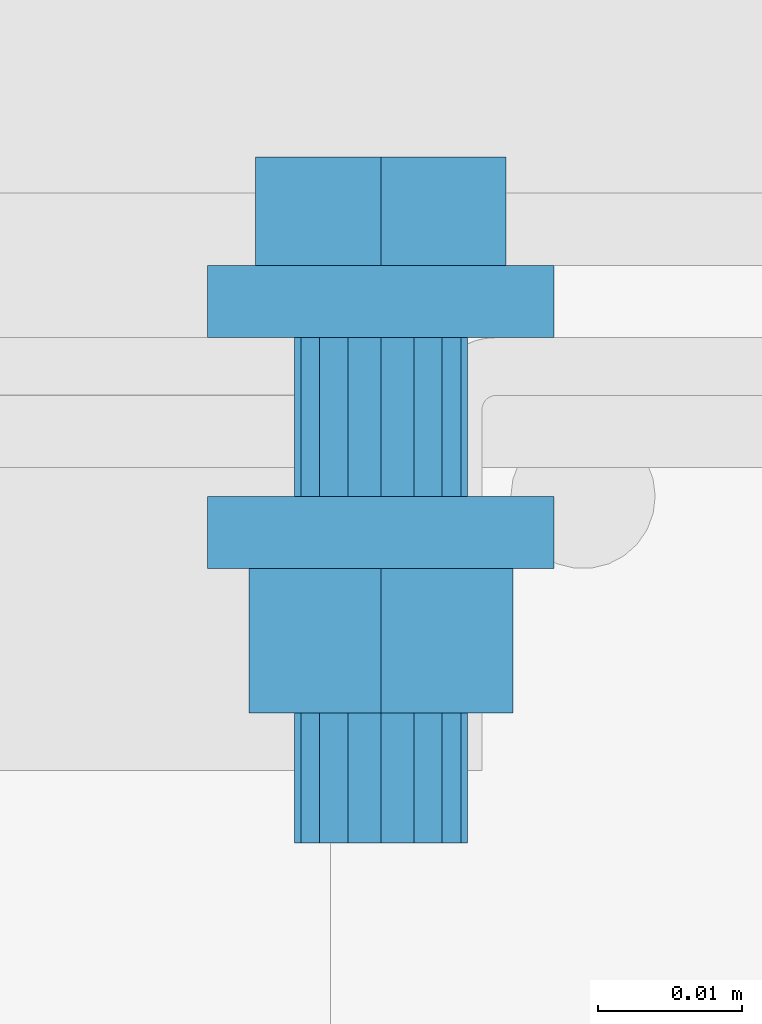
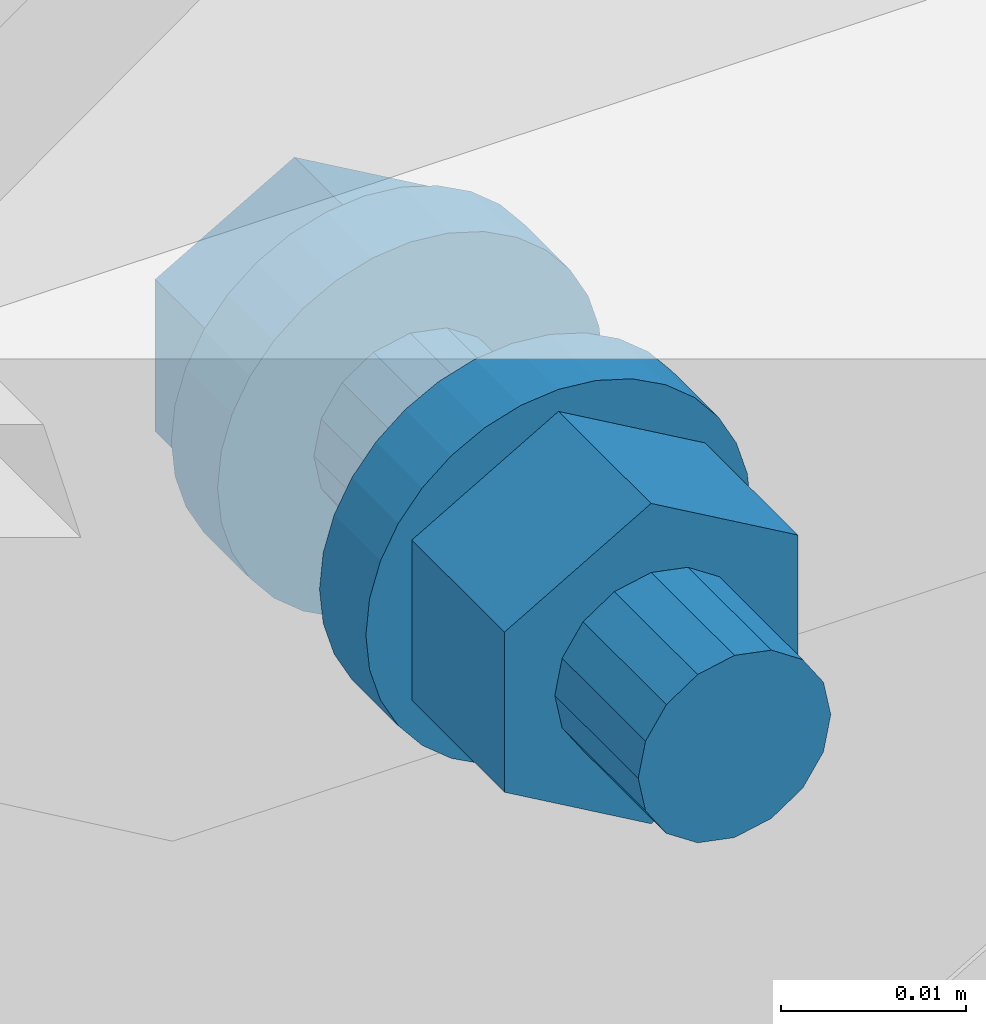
# One storey, part 87 of 116: 1 mechanical fastener.
"""IFC2X3 building model written with IfcOpenShell, lengths in millimetres."""

from ifc_helpers import new_model, entity, si_unit, converted_unit, origin_with_axes, place, context, project, spatial, faceted_brep, element, save


model = new_model("IFC2X3")

# Units and contexts
model_context = context("Model", 3, precision=1e-09, world=origin_with_axes())
ifc_project = project(units=[si_unit("LENGTHUNIT", "METRE", prefix="MILLI"), si_unit("AREAUNIT", "SQUARE_METRE"), si_unit("VOLUMEUNIT", "CUBIC_METRE"), converted_unit("PLANEANGLEUNIT", "DEGREE", entity("IfcPlaneAngleMeasure", 0.01745329), si_unit("PLANEANGLEUNIT", "RADIAN"), dimensions=[0, 0, 0, 0, 0, 0, 0])], contexts=[model_context])

# Site, building, storey
site_placement = place(None, origin_with_axes())
site = spatial("IfcSite", under=ifc_project, at=site_placement, Name="Site", CompositionType="ELEMENT")
building_placement = place(site_placement, origin_with_axes())
building = spatial("IfcBuilding", under=site, at=building_placement, Name="Struktur 1", CompositionType="ELEMENT")
storey_placement = place(building_placement, origin_with_axes())
storey = spatial("IfcBuildingStorey", under=building, at=storey_placement, Name="Default Storey", CompositionType="ELEMENT", Elevation=0.0)

# Mechanical fastener
mechanical_fastener_placement = place(None, origin_with_axes())
element("IfcMechanicalFastener", 1, at=mechanical_fastener_placement, inside=storey, ObjectType="-", NominalDiameter=12.0, NominalLength=40.0, context=model_context, shape_type="Brep", body=[
    faceted_brep([(60385.049134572, 10430.358883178, -1308.0), (60385.049134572, 10432.858883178, -1308.0), (60385.279711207, 10432.858883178, -1310.341083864), (60385.279711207, 10430.358883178, -1310.341083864), (60385.962580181, 10432.858883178, -1312.592201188), (60385.962580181, 10430.358883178, -1312.592201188), (60387.071499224, 10432.858883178, -1314.666842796), (60387.071499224, 10430.358883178, -1314.666842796), (60388.563853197, 10432.858883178, -1316.485281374), (60388.563853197, 10430.358883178, -1316.485281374), (60390.382291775, 10432.858883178, -1317.977635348), (60390.382291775, 10430.358883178, -1317.977635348), (60392.456933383, 10432.858883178, -1319.08655439), (60392.456933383, 10430.358883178, -1319.08655439), (60394.708050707, 10432.858883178, -1319.769423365), (60394.708050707, 10430.358883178, -1319.769423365), (60397.049134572, 10432.858883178, -1320.0), (60397.049134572, 10430.358883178, -1320.0), (60399.390218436, 10432.858883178, -1319.769423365), (60399.390218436, 10430.358883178, -1319.769423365), (60401.64133576, 10432.858883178, -1319.08655439), (60401.64133576, 10430.358883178, -1319.08655439), (60403.715977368, 10432.858883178, -1317.977635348), (60403.715977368, 10430.358883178, -1317.977635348), (60405.534415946, 10432.858883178, -1316.485281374), (60405.534415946, 10430.358883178, -1316.485281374), (60407.026769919, 10432.858883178, -1314.666842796), (60407.026769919, 10430.358883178, -1314.666842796), (60408.135688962, 10432.858883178, -1312.592201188), (60408.135688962, 10430.358883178, -1312.592201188), (60408.818557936, 10432.858883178, -1310.341083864), (60408.818557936, 10430.358883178, -1310.341083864), (60409.049134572, 10432.858883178, -1308.0), (60409.049134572, 10430.358883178, -1308.0), (60408.818557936, 10432.858883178, -1305.658916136), (60408.818557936, 10430.358883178, -1305.658916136), (60408.135688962, 10432.858883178, -1303.407798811), (60408.135688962, 10430.358883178, -1303.407798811), (60407.026769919, 10432.858883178, -1301.333157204), (60407.026769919, 10430.358883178, -1301.333157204), (60405.534415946, 10432.858883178, -1299.514718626), (60405.534415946, 10430.358883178, -1299.514718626), (60403.715977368, 10432.858883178, -1298.022364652), (60403.715977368, 10430.358883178, -1298.022364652), (60401.64133576, 10432.858883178, -1296.91344561), (60401.64133576, 10430.358883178, -1296.91344561), (60399.390218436, 10432.858883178, -1296.230576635), (60399.390218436, 10430.358883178, -1296.230576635), (60397.049134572, 10432.858883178, -1296.0), (60397.049134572, 10430.358883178, -1296.0), (60394.708050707, 10432.858883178, -1296.230576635), (60394.708050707, 10430.358883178, -1296.230576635), (60392.456933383, 10432.858883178, -1296.91344561), (60392.456933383, 10430.358883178, -1296.91344561), (60390.382291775, 10432.858883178, -1298.022364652), (60390.382291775, 10430.358883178, -1298.022364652), (60388.563853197, 10432.858883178, -1299.514718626), (60388.563853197, 10430.358883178, -1299.514718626), (60387.071499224, 10432.858883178, -1301.333157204), (60387.071499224, 10430.358883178, -1301.333157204), (60385.962580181, 10432.858883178, -1303.407798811), (60385.962580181, 10430.358883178, -1303.407798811), (60385.279711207, 10432.858883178, -1305.658916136), (60385.279711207, 10430.358883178, -1305.658916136)], [[[0, 1, 2, 3]], [[3, 2, 4, 5]], [[5, 4, 6, 7]], [[7, 6, 8, 9]], [[9, 8, 10, 11]], [[11, 10, 12, 13]], [[13, 12, 14, 15]], [[15, 14, 16, 17]], [[17, 16, 18, 19]], [[19, 18, 20, 21]], [[21, 20, 22, 23]], [[23, 22, 24, 25]], [[25, 24, 26, 27]], [[27, 26, 28, 29]], [[29, 28, 30, 31]], [[31, 30, 32, 33]], [[33, 32, 34, 35]], [[35, 34, 36, 37]], [[37, 36, 38, 39]], [[39, 38, 40, 41]], [[41, 40, 42, 43]], [[43, 42, 44, 45]], [[45, 44, 46, 47]], [[47, 46, 48, 49]], [[49, 48, 50, 51]], [[51, 50, 52, 53]], [[53, 52, 54, 55]], [[55, 54, 56, 57]], [[57, 56, 58, 59]], [[59, 58, 60, 61]], [[61, 60, 62, 63]], [[63, 62, 1, 0]], [[2, 1, 62, 60, 58, 56, 54, 52, 50, 48, 46, 44, 42, 40, 38, 36, 34, 32, 30, 28, 26, 24, 22, 20, 18, 16, 14, 12, 10, 8, 6, 4]], [[63, 0, 3, 5, 7, 9, 11, 13, 15, 17, 19, 21, 23, 25, 27, 29, 31, 33, 35, 37, 39, 41, 43, 45, 47, 49, 51, 53, 55, 57, 59, 61]]]),
    faceted_brep([(60385.049134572, 10432.858883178, -1308.0), (60385.049134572, 10435.358883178, -1308.0), (60385.279711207, 10435.358883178, -1310.341083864), (60385.279711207, 10432.858883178, -1310.341083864), (60385.962580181, 10435.358883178, -1312.592201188), (60385.962580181, 10432.858883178, -1312.592201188), (60387.071499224, 10435.358883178, -1314.666842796), (60387.071499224, 10432.858883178, -1314.666842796), (60388.563853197, 10435.358883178, -1316.485281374), (60388.563853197, 10432.858883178, -1316.485281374), (60390.382291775, 10435.358883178, -1317.977635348), (60390.382291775, 10432.858883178, -1317.977635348), (60392.456933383, 10435.358883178, -1319.08655439), (60392.456933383, 10432.858883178, -1319.08655439), (60394.708050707, 10435.358883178, -1319.769423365), (60394.708050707, 10432.858883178, -1319.769423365), (60397.049134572, 10435.358883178, -1320.0), (60397.049134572, 10432.858883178, -1320.0), (60399.390218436, 10435.358883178, -1319.769423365), (60399.390218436, 10432.858883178, -1319.769423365), (60401.64133576, 10435.358883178, -1319.08655439), (60401.64133576, 10432.858883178, -1319.08655439), (60403.715977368, 10435.358883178, -1317.977635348), (60403.715977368, 10432.858883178, -1317.977635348), (60405.534415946, 10435.358883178, -1316.485281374), (60405.534415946, 10432.858883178, -1316.485281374), (60407.026769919, 10435.358883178, -1314.666842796), (60407.026769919, 10432.858883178, -1314.666842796), (60408.135688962, 10435.358883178, -1312.592201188), (60408.135688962, 10432.858883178, -1312.592201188), (60408.818557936, 10435.358883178, -1310.341083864), (60408.818557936, 10432.858883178, -1310.341083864), (60409.049134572, 10435.358883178, -1308.0), (60409.049134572, 10432.858883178, -1308.0), (60408.818557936, 10435.358883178, -1305.658916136), (60408.818557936, 10432.858883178, -1305.658916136), (60408.135688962, 10435.358883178, -1303.407798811), (60408.135688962, 10432.858883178, -1303.407798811), (60407.026769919, 10435.358883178, -1301.333157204), (60407.026769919, 10432.858883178, -1301.333157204), (60405.534415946, 10435.358883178, -1299.514718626), (60405.534415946, 10432.858883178, -1299.514718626), (60403.715977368, 10435.358883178, -1298.022364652), (60403.715977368, 10432.858883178, -1298.022364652), (60401.64133576, 10435.358883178, -1296.91344561), (60401.64133576, 10432.858883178, -1296.91344561), (60399.390218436, 10435.358883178, -1296.230576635), (60399.390218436, 10432.858883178, -1296.230576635), (60397.049134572, 10435.358883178, -1296.0), (60397.049134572, 10432.858883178, -1296.0), (60394.708050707, 10435.358883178, -1296.230576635), (60394.708050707, 10432.858883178, -1296.230576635), (60392.456933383, 10435.358883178, -1296.91344561), (60392.456933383, 10432.858883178, -1296.91344561), (60390.382291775, 10435.358883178, -1298.022364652), (60390.382291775, 10432.858883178, -1298.022364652), (60388.563853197, 10435.358883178, -1299.514718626), (60388.563853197, 10432.858883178, -1299.514718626), (60387.071499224, 10435.358883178, -1301.333157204), (60387.071499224, 10432.858883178, -1301.333157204), (60385.962580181, 10435.358883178, -1303.407798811), (60385.962580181, 10432.858883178, -1303.407798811), (60385.279711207, 10435.358883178, -1305.658916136), (60385.279711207, 10432.858883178, -1305.658916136)], [[[0, 1, 2, 3]], [[3, 2, 4, 5]], [[5, 4, 6, 7]], [[7, 6, 8, 9]], [[9, 8, 10, 11]], [[11, 10, 12, 13]], [[13, 12, 14, 15]], [[15, 14, 16, 17]], [[17, 16, 18, 19]], [[19, 18, 20, 21]], [[21, 20, 22, 23]], [[23, 22, 24, 25]], [[25, 24, 26, 27]], [[27, 26, 28, 29]], [[29, 28, 30, 31]], [[31, 30, 32, 33]], [[33, 32, 34, 35]], [[35, 34, 36, 37]], [[37, 36, 38, 39]], [[39, 38, 40, 41]], [[41, 40, 42, 43]], [[43, 42, 44, 45]], [[45, 44, 46, 47]], [[47, 46, 48, 49]], [[49, 48, 50, 51]], [[51, 50, 52, 53]], [[53, 52, 54, 55]], [[55, 54, 56, 57]], [[57, 56, 58, 59]], [[59, 58, 60, 61]], [[61, 60, 62, 63]], [[63, 62, 1, 0]], [[2, 1, 62, 60, 58, 56, 54, 52, 50, 48, 46, 44, 42, 40, 38, 36, 34, 32, 30, 28, 26, 24, 22, 20, 18, 16, 14, 12, 10, 8, 6, 4]], [[63, 0, 3, 5, 7, 9, 11, 13, 15, 17, 19, 21, 23, 25, 27, 29, 31, 33, 35, 37, 39, 41, 43, 45, 47, 49, 51, 53, 55, 57, 59, 61]]]),
    faceted_brep([(60405.722378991, 10442.858883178, -1313.0075), (60405.722378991, 10435.358883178, -1313.0075), (60397.049134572, 10435.358883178, -1318.015), (60397.049134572, 10442.858883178, -1318.015), (60388.375890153, 10435.358883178, -1313.0075), (60388.375890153, 10442.858883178, -1313.0075), (60388.375890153, 10435.358883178, -1302.9925), (60388.375890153, 10442.858883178, -1302.9925), (60397.049134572, 10435.358883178, -1297.985), (60397.049134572, 10442.858883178, -1297.985), (60405.722378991, 10435.358883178, -1302.9925), (60405.722378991, 10442.858883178, -1302.9925)], [[[0, 1, 2, 3]], [[3, 2, 4, 5]], [[5, 4, 6, 7]], [[7, 6, 8, 9]], [[9, 8, 10, 11]], [[11, 10, 1, 0]], [[3, 5, 7, 9, 11, 0]], [[2, 1, 10, 8, 6, 4]]]),
    faceted_brep([(60391.049134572, 10419.358883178, -1308.0), (60391.049134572, 10430.358883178, -1308.0), (60391.505857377, 10430.358883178, -1310.296100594), (60391.505857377, 10419.358883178, -1310.296100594), (60392.806493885, 10430.358883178, -1312.242640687), (60392.806493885, 10419.358883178, -1312.242640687), (60394.753033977, 10430.358883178, -1313.543277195), (60394.753033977, 10419.358883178, -1313.543277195), (60397.049134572, 10430.358883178, -1314.0), (60397.049134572, 10419.358883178, -1314.0), (60399.345235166, 10430.358883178, -1313.543277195), (60399.345235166, 10419.358883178, -1313.543277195), (60401.291775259, 10430.358883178, -1312.242640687), (60401.291775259, 10419.358883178, -1312.242640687), (60402.592411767, 10430.358883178, -1310.296100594), (60402.592411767, 10419.358883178, -1310.296100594), (60403.049134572, 10430.358883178, -1308.0), (60403.049134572, 10419.358883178, -1308.0), (60402.592411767, 10430.358883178, -1305.703899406), (60402.592411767, 10419.358883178, -1305.703899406), (60401.291775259, 10430.358883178, -1303.757359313), (60401.291775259, 10419.358883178, -1303.757359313), (60399.345235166, 10430.358883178, -1302.456722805), (60399.345235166, 10419.358883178, -1302.456722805), (60397.049134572, 10430.358883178, -1302.0), (60397.049134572, 10419.358883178, -1302.0), (60394.753033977, 10430.358883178, -1302.456722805), (60394.753033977, 10419.358883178, -1302.456722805), (60392.806493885, 10430.358883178, -1303.757359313), (60392.806493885, 10419.358883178, -1303.757359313), (60391.505857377, 10430.358883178, -1305.703899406), (60391.505857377, 10419.358883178, -1305.703899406)], [[[0, 1, 2, 3]], [[3, 2, 4, 5]], [[5, 4, 6, 7]], [[7, 6, 8, 9]], [[9, 8, 10, 11]], [[11, 10, 12, 13]], [[13, 12, 14, 15]], [[15, 14, 16, 17]], [[17, 16, 18, 19]], [[19, 18, 20, 21]], [[21, 20, 22, 23]], [[23, 22, 24, 25]], [[25, 24, 26, 27]], [[27, 26, 28, 29]], [[29, 28, 30, 31]], [[31, 30, 1, 0]], [[2, 1, 30, 28, 26, 24, 22, 20, 18, 16, 14, 12, 10, 8, 6, 4]], [[31, 0, 3, 5, 7, 9, 11, 13, 15, 17, 19, 21, 23, 25, 27, 29]]]),
    faceted_brep([(60385.049134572, 10416.858883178, -1308.0), (60385.049134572, 10419.358883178, -1308.0), (60385.279711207, 10419.358883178, -1310.341083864), (60385.279711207, 10416.858883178, -1310.341083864), (60385.962580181, 10419.358883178, -1312.592201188), (60385.962580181, 10416.858883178, -1312.592201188), (60387.071499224, 10419.358883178, -1314.666842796), (60387.071499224, 10416.858883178, -1314.666842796), (60388.563853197, 10419.358883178, -1316.485281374), (60388.563853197, 10416.858883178, -1316.485281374), (60390.382291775, 10419.358883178, -1317.977635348), (60390.382291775, 10416.858883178, -1317.977635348), (60392.456933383, 10419.358883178, -1319.08655439), (60392.456933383, 10416.858883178, -1319.08655439), (60394.708050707, 10419.358883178, -1319.769423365), (60394.708050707, 10416.858883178, -1319.769423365), (60397.049134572, 10419.358883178, -1320.0), (60397.049134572, 10416.858883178, -1320.0), (60399.390218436, 10419.358883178, -1319.769423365), (60399.390218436, 10416.858883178, -1319.769423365), (60401.64133576, 10419.358883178, -1319.08655439), (60401.64133576, 10416.858883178, -1319.08655439), (60403.715977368, 10419.358883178, -1317.977635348), (60403.715977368, 10416.858883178, -1317.977635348), (60405.534415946, 10419.358883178, -1316.485281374), (60405.534415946, 10416.858883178, -1316.485281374), (60407.026769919, 10419.358883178, -1314.666842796), (60407.026769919, 10416.858883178, -1314.666842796), (60408.135688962, 10419.358883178, -1312.592201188), (60408.135688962, 10416.858883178, -1312.592201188), (60408.818557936, 10419.358883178, -1310.341083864), (60408.818557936, 10416.858883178, -1310.341083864), (60409.049134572, 10419.358883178, -1308.0), (60409.049134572, 10416.858883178, -1308.0), (60408.818557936, 10419.358883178, -1305.658916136), (60408.818557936, 10416.858883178, -1305.658916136), (60408.135688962, 10419.358883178, -1303.407798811), (60408.135688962, 10416.858883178, -1303.407798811), (60407.026769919, 10419.358883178, -1301.333157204), (60407.026769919, 10416.858883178, -1301.333157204), (60405.534415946, 10419.358883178, -1299.514718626), (60405.534415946, 10416.858883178, -1299.514718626), (60403.715977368, 10419.358883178, -1298.022364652), (60403.715977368, 10416.858883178, -1298.022364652), (60401.64133576, 10419.358883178, -1296.91344561), (60401.64133576, 10416.858883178, -1296.91344561), (60399.390218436, 10419.358883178, -1296.230576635), (60399.390218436, 10416.858883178, -1296.230576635), (60397.049134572, 10419.358883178, -1296.0), (60397.049134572, 10416.858883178, -1296.0), (60394.708050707, 10419.358883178, -1296.230576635), (60394.708050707, 10416.858883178, -1296.230576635), (60392.456933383, 10419.358883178, -1296.91344561), (60392.456933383, 10416.858883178, -1296.91344561), (60390.382291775, 10419.358883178, -1298.022364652), (60390.382291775, 10416.858883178, -1298.022364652), (60388.563853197, 10419.358883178, -1299.514718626), (60388.563853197, 10416.858883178, -1299.514718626), (60387.071499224, 10419.358883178, -1301.333157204), (60387.071499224, 10416.858883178, -1301.333157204), (60385.962580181, 10419.358883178, -1303.407798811), (60385.962580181, 10416.858883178, -1303.407798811), (60385.279711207, 10419.358883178, -1305.658916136), (60385.279711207, 10416.858883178, -1305.658916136)], [[[0, 1, 2, 3]], [[3, 2, 4, 5]], [[5, 4, 6, 7]], [[7, 6, 8, 9]], [[9, 8, 10, 11]], [[11, 10, 12, 13]], [[13, 12, 14, 15]], [[15, 14, 16, 17]], [[17, 16, 18, 19]], [[19, 18, 20, 21]], [[21, 20, 22, 23]], [[23, 22, 24, 25]], [[25, 24, 26, 27]], [[27, 26, 28, 29]], [[29, 28, 30, 31]], [[31, 30, 32, 33]], [[33, 32, 34, 35]], [[35, 34, 36, 37]], [[37, 36, 38, 39]], [[39, 38, 40, 41]], [[41, 40, 42, 43]], [[43, 42, 44, 45]], [[45, 44, 46, 47]], [[47, 46, 48, 49]], [[49, 48, 50, 51]], [[51, 50, 52, 53]], [[53, 52, 54, 55]], [[55, 54, 56, 57]], [[57, 56, 58, 59]], [[59, 58, 60, 61]], [[61, 60, 62, 63]], [[63, 62, 1, 0]], [[2, 1, 62, 60, 58, 56, 54, 52, 50, 48, 46, 44, 42, 40, 38, 36, 34, 32, 30, 28, 26, 24, 22, 20, 18, 16, 14, 12, 10, 8, 6, 4]], [[63, 0, 3, 5, 7, 9, 11, 13, 15, 17, 19, 21, 23, 25, 27, 29, 31, 33, 35, 37, 39, 41, 43, 45, 47, 49, 51, 53, 55, 57, 59, 61]]]),
    faceted_brep([(60385.049134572, 10414.358883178, -1308.0), (60385.049134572, 10416.858883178, -1308.0), (60385.279711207, 10416.858883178, -1310.341083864), (60385.279711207, 10414.358883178, -1310.341083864), (60385.962580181, 10416.858883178, -1312.592201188), (60385.962580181, 10414.358883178, -1312.592201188), (60387.071499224, 10416.858883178, -1314.666842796), (60387.071499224, 10414.358883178, -1314.666842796), (60388.563853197, 10416.858883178, -1316.485281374), (60388.563853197, 10414.358883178, -1316.485281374), (60390.382291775, 10416.858883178, -1317.977635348), (60390.382291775, 10414.358883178, -1317.977635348), (60392.456933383, 10416.858883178, -1319.08655439), (60392.456933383, 10414.358883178, -1319.08655439), (60394.708050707, 10416.858883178, -1319.769423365), (60394.708050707, 10414.358883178, -1319.769423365), (60397.049134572, 10416.858883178, -1320.0), (60397.049134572, 10414.358883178, -1320.0), (60399.390218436, 10416.858883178, -1319.769423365), (60399.390218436, 10414.358883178, -1319.769423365), (60401.64133576, 10416.858883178, -1319.08655439), (60401.64133576, 10414.358883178, -1319.08655439), (60403.715977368, 10416.858883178, -1317.977635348), (60403.715977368, 10414.358883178, -1317.977635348), (60405.534415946, 10416.858883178, -1316.485281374), (60405.534415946, 10414.358883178, -1316.485281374), (60407.026769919, 10416.858883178, -1314.666842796), (60407.026769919, 10414.358883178, -1314.666842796), (60408.135688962, 10416.858883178, -1312.592201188), (60408.135688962, 10414.358883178, -1312.592201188), (60408.818557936, 10416.858883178, -1310.341083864), (60408.818557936, 10414.358883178, -1310.341083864), (60409.049134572, 10416.858883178, -1308.0), (60409.049134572, 10414.358883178, -1308.0), (60408.818557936, 10416.858883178, -1305.658916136), (60408.818557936, 10414.358883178, -1305.658916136), (60408.135688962, 10416.858883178, -1303.407798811), (60408.135688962, 10414.358883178, -1303.407798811), (60407.026769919, 10416.858883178, -1301.333157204), (60407.026769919, 10414.358883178, -1301.333157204), (60405.534415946, 10416.858883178, -1299.514718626), (60405.534415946, 10414.358883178, -1299.514718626), (60403.715977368, 10416.858883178, -1298.022364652), (60403.715977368, 10414.358883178, -1298.022364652), (60401.64133576, 10416.858883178, -1296.91344561), (60401.64133576, 10414.358883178, -1296.91344561), (60399.390218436, 10416.858883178, -1296.230576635), (60399.390218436, 10414.358883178, -1296.230576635), (60397.049134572, 10416.858883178, -1296.0), (60397.049134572, 10414.358883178, -1296.0), (60394.708050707, 10416.858883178, -1296.230576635), (60394.708050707, 10414.358883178, -1296.230576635), (60392.456933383, 10416.858883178, -1296.91344561), (60392.456933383, 10414.358883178, -1296.91344561), (60390.382291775, 10416.858883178, -1298.022364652), (60390.382291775, 10414.358883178, -1298.022364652), (60388.563853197, 10416.858883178, -1299.514718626), (60388.563853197, 10414.358883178, -1299.514718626), (60387.071499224, 10416.858883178, -1301.333157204), (60387.071499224, 10414.358883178, -1301.333157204), (60385.962580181, 10416.858883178, -1303.407798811), (60385.962580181, 10414.358883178, -1303.407798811), (60385.279711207, 10416.858883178, -1305.658916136), (60385.279711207, 10414.358883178, -1305.658916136)], [[[0, 1, 2, 3]], [[3, 2, 4, 5]], [[5, 4, 6, 7]], [[7, 6, 8, 9]], [[9, 8, 10, 11]], [[11, 10, 12, 13]], [[13, 12, 14, 15]], [[15, 14, 16, 17]], [[17, 16, 18, 19]], [[19, 18, 20, 21]], [[21, 20, 22, 23]], [[23, 22, 24, 25]], [[25, 24, 26, 27]], [[27, 26, 28, 29]], [[29, 28, 30, 31]], [[31, 30, 32, 33]], [[33, 32, 34, 35]], [[35, 34, 36, 37]], [[37, 36, 38, 39]], [[39, 38, 40, 41]], [[41, 40, 42, 43]], [[43, 42, 44, 45]], [[45, 44, 46, 47]], [[47, 46, 48, 49]], [[49, 48, 50, 51]], [[51, 50, 52, 53]], [[53, 52, 54, 55]], [[55, 54, 56, 57]], [[57, 56, 58, 59]], [[59, 58, 60, 61]], [[61, 60, 62, 63]], [[63, 62, 1, 0]], [[2, 1, 62, 60, 58, 56, 54, 52, 50, 48, 46, 44, 42, 40, 38, 36, 34, 32, 30, 28, 26, 24, 22, 20, 18, 16, 14, 12, 10, 8, 6, 4]], [[63, 0, 3, 5, 7, 9, 11, 13, 15, 17, 19, 21, 23, 25, 27, 29, 31, 33, 35, 37, 39, 41, 43, 45, 47, 49, 51, 53, 55, 57, 59, 61]]]),
    faceted_brep([(60406.185702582, 10414.358883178, -1313.275), (60406.185702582, 10404.358883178, -1313.275), (60397.049134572, 10404.358883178, -1318.55), (60397.049134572, 10414.358883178, -1318.55), (60387.912566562, 10404.358883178, -1313.275), (60387.912566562, 10414.358883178, -1313.275), (60387.912566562, 10404.358883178, -1302.725), (60387.912566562, 10414.358883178, -1302.725), (60397.049134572, 10404.358883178, -1297.45), (60397.049134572, 10414.358883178, -1297.45), (60406.185702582, 10404.358883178, -1302.725), (60406.185702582, 10414.358883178, -1302.725)], [[[0, 1, 2, 3]], [[3, 2, 4, 5]], [[5, 4, 6, 7]], [[7, 6, 8, 9]], [[9, 8, 10, 11]], [[11, 10, 1, 0]], [[3, 5, 7, 9, 11, 0]], [[2, 1, 10, 8, 6, 4]]]),
    faceted_brep([(60391.049134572, 10395.358883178, -1308.0), (60391.049134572, 10404.358883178, -1308.0), (60391.505857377, 10404.358883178, -1310.296100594), (60391.505857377, 10395.358883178, -1310.296100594), (60392.806493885, 10404.358883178, -1312.242640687), (60392.806493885, 10395.358883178, -1312.242640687), (60394.753033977, 10404.358883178, -1313.543277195), (60394.753033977, 10395.358883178, -1313.543277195), (60397.049134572, 10404.358883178, -1314.0), (60397.049134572, 10395.358883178, -1314.0), (60399.345235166, 10404.358883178, -1313.543277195), (60399.345235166, 10395.358883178, -1313.543277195), (60401.291775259, 10404.358883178, -1312.242640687), (60401.291775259, 10395.358883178, -1312.242640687), (60402.592411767, 10404.358883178, -1310.296100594), (60402.592411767, 10395.358883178, -1310.296100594), (60403.049134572, 10404.358883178, -1308.0), (60403.049134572, 10395.358883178, -1308.0), (60402.592411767, 10404.358883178, -1305.703899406), (60402.592411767, 10395.358883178, -1305.703899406), (60401.291775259, 10404.358883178, -1303.757359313), (60401.291775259, 10395.358883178, -1303.757359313), (60399.345235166, 10404.358883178, -1302.456722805), (60399.345235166, 10395.358883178, -1302.456722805), (60397.049134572, 10404.358883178, -1302.0), (60397.049134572, 10395.358883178, -1302.0), (60394.753033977, 10404.358883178, -1302.456722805), (60394.753033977, 10395.358883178, -1302.456722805), (60392.806493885, 10404.358883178, -1303.757359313), (60392.806493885, 10395.358883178, -1303.757359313), (60391.505857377, 10404.358883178, -1305.703899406), (60391.505857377, 10395.358883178, -1305.703899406)], [[[0, 1, 2, 3]], [[3, 2, 4, 5]], [[5, 4, 6, 7]], [[7, 6, 8, 9]], [[9, 8, 10, 11]], [[11, 10, 12, 13]], [[13, 12, 14, 15]], [[15, 14, 16, 17]], [[17, 16, 18, 19]], [[19, 18, 20, 21]], [[21, 20, 22, 23]], [[23, 22, 24, 25]], [[25, 24, 26, 27]], [[27, 26, 28, 29]], [[29, 28, 30, 31]], [[31, 30, 1, 0]], [[2, 1, 30, 28, 26, 24, 22, 20, 18, 16, 14, 12, 10, 8, 6, 4]], [[31, 0, 3, 5, 7, 9, 11, 13, 15, 17, 19, 21, 23, 25, 27, 29]]]),
])

save(model, "model.ifc")
